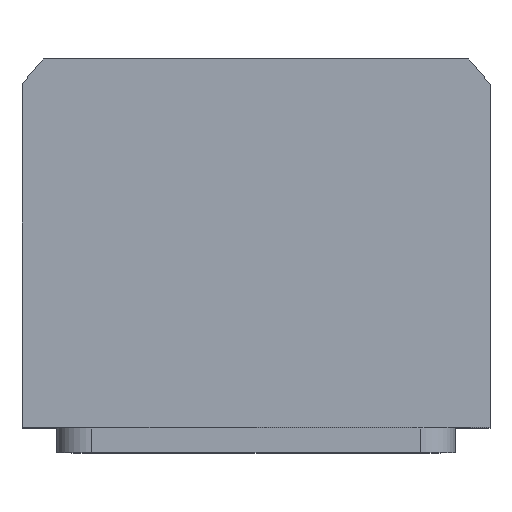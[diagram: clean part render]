
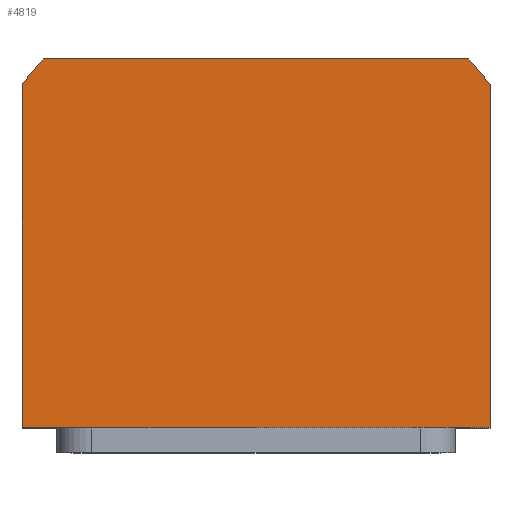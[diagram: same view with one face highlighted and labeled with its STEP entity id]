
A CAD part, top view. The second image highlights one B-rep face of the part: STEP entity #4819.
In plain terms, the highlighted planar face has unit normal (0, 0, 1).
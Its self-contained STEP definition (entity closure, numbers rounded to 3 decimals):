
#2350=PLANE('',#11036);
#2625=LINE('',#15963,#3423);
#2656=LINE('',#16653,#3454);
#2677=LINE('',#16721,#3475);
#2686=LINE('',#16747,#3484);
#3423=VECTOR('',#11485,1.);
#3454=VECTOR('',#11620,1.);
#3475=VECTOR('',#11671,1.);
#3484=VECTOR('',#11694,1.);
#4819=ADVANCED_FACE('',(#5247),#2350,.T.);
#5247=FACE_OUTER_BOUND('',#5699,.T.);
#5699=EDGE_LOOP('',(#6680,#6681,#6682,#6683,#6684,#6685));
#6181=CIRCLE('',#11014,58.5);
#6185=CIRCLE('',#11020,58.5);
#6680=ORIENTED_EDGE('',*,*,#9779,.T.);
#6681=ORIENTED_EDGE('',*,*,#9809,.T.);
#6682=ORIENTED_EDGE('',*,*,#9793,.T.);
#6683=ORIENTED_EDGE('',*,*,#9823,.T.);
#6684=ORIENTED_EDGE('',*,*,#9786,.T.);
#6685=ORIENTED_EDGE('',*,*,#9678,.T.);
#8790=VERTEX_POINT('',#15962);
#8791=VERTEX_POINT('',#15964);
#8883=VERTEX_POINT('',#16652);
#8888=VERTEX_POINT('',#16665);
#8892=VERTEX_POINT('',#16677);
#8895=VERTEX_POINT('',#16682);
#9678=EDGE_CURVE('',#8791,#8790,#2625,.T.);
#9779=EDGE_CURVE('',#8790,#8883,#2656,.T.);
#9786=EDGE_CURVE('',#8888,#8791,#6181,.T.);
#9793=EDGE_CURVE('',#8892,#8895,#6185,.T.);
#9809=EDGE_CURVE('',#8883,#8892,#2677,.T.);
#9823=EDGE_CURVE('',#8895,#8888,#2686,.T.);
#11014=AXIS2_PLACEMENT_3D('',#16668,#11634,#11635);
#11020=AXIS2_PLACEMENT_3D('',#16683,#11649,#11650);
#11036=AXIS2_PLACEMENT_3D('',#16758,#11708,#11709);
#11485=DIRECTION('',(0.,-1.,0.));
#11620=DIRECTION('',(1.,0.,0.));
#11634=DIRECTION('',(0.,0.,1.));
#11635=DIRECTION('',(1.,0.,0.));
#11649=DIRECTION('',(0.,0.,1.));
#11650=DIRECTION('',(1.,0.,0.));
#11671=DIRECTION('',(0.,1.,0.));
#11694=DIRECTION('',(-1.,0.,0.));
#11708=DIRECTION('',(0.,0.,1.));
#11709=DIRECTION('',(-1.,0.,0.));
#15962=CARTESIAN_POINT('',(-47.,-34.,55.));
#15963=CARTESIAN_POINT('',(-47.,-34.,55.));
#15964=CARTESIAN_POINT('',(-47.,34.832,55.));
#16652=CARTESIAN_POINT('',(47.,-34.,55.));
#16653=CARTESIAN_POINT('',(47.,-34.,55.));
#16665=CARTESIAN_POINT('',(-42.688,40.,55.));
#16668=CARTESIAN_POINT('',(0.,0.,55.));
#16677=CARTESIAN_POINT('',(47.,34.832,55.));
#16682=CARTESIAN_POINT('',(42.688,40.,55.));
#16683=CARTESIAN_POINT('',(0.,0.,55.));
#16721=CARTESIAN_POINT('',(47.,34.832,55.));
#16747=CARTESIAN_POINT('',(-42.688,40.,55.));
#16758=CARTESIAN_POINT('',(0.,0.,55.));
